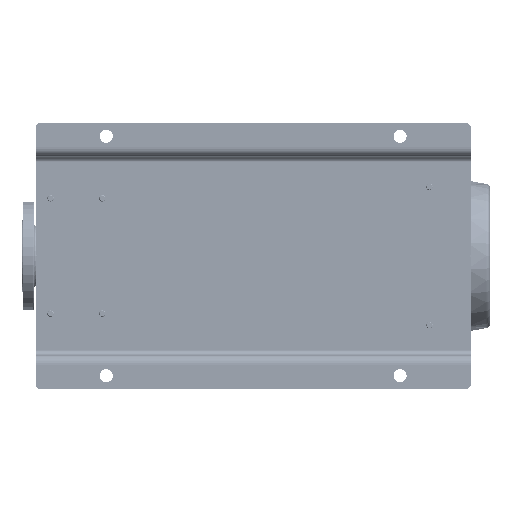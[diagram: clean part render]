
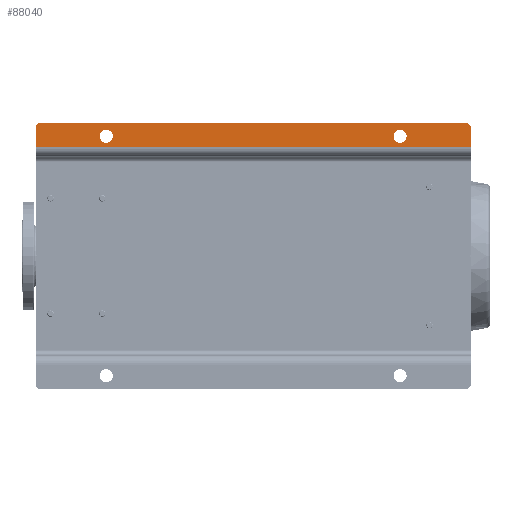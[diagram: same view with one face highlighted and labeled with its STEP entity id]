
A CAD part, front view. The second image highlights one B-rep face of the part: STEP entity #88040.
In plain terms, the highlighted planar face has unit normal (0, -1, 0).
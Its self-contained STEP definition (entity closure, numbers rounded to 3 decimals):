
#8941 = DIRECTION ( 'NONE',  ( 0., 0., -1. ) ) ;
#10934 = VERTEX_POINT ( 'NONE', #189083 ) ;
#16462 = DIRECTION ( 'NONE',  ( 0., 1., 0. ) ) ;
#20020 = VERTEX_POINT ( 'NONE', #116918 ) ;
#21479 = DIRECTION ( 'NONE',  ( 1., 0., 0. ) ) ;
#26175 = EDGE_CURVE ( 'NONE', #178928, #267199, #134485, .T. ) ;
#28060 = EDGE_CURVE ( 'NONE', #260769, #10934, #126453, .T. ) ;
#29530 = CARTESIAN_POINT ( 'NONE',  ( 477., 0., -670. ) ) ;
#30707 = LINE ( 'NONE', #207595, #228377 ) ;
#31109 = AXIS2_PLACEMENT_3D ( 'NONE', #174528, #16462, #149809 ) ;
#35516 = CARTESIAN_POINT ( 'NONE',  ( 445., 0., -800. ) ) ;
#44300 = ORIENTED_EDGE ( 'NONE', *, *, #239500, .T. ) ;
#45426 = CIRCLE ( 'NONE', #87217, 12. ) ;
#47220 = DIRECTION ( 'NONE',  ( 0., 0., -1. ) ) ;
#50452 = EDGE_CURVE ( 'NONE', #81708, #20020, #95686, .T. ) ;
#51413 = EDGE_CURVE ( 'NONE', #259460, #201997, #45426, .T. ) ;
#51449 = CARTESIAN_POINT ( 'NONE',  ( 465., 0., -670. ) ) ;
#52838 = DIRECTION ( 'NONE',  ( 0., 0., -1. ) ) ;
#55709 = DIRECTION ( 'NONE',  ( 0., 1., 0. ) ) ;
#56343 = EDGE_CURVE ( 'NONE', #61596, #104728, #153421, .T. ) ;
#56993 = FACE_BOUND ( 'NONE', #237165, .T. ) ;
#61596 = VERTEX_POINT ( 'NONE', #35516 ) ;
#66898 = ORIENTED_EDGE ( 'NONE', *, *, #284104, .T. ) ;
#76977 = EDGE_LOOP ( 'NONE', ( #121349, #66898, #191761, #226398, #140323, #44300 ) ) ;
#77239 = FACE_OUTER_BOUND ( 'NONE', #76977, .T. ) ;
#77406 = CIRCLE ( 'NONE', #31109, 12. ) ;
#81708 = VERTEX_POINT ( 'NONE', #197735 ) ;
#82726 = CARTESIAN_POINT ( 'NONE',  ( 490., 0., -790. ) ) ;
#84657 = ORIENTED_EDGE ( 'NONE', *, *, #192512, .T. ) ;
#87217 = AXIS2_PLACEMENT_3D ( 'NONE', #51449, #184919, #164569 ) ;
#88040 = ADVANCED_FACE ( 'NONE', ( #56993, #276044, #77239 ), #188996, .T. ) ;
#91913 = ORIENTED_EDGE ( 'NONE', *, *, #51413, .T. ) ;
#92141 = CARTESIAN_POINT ( 'NONE',  ( 480., 0., -10. ) ) ;
#93899 = CARTESIAN_POINT ( 'NONE',  ( 490., 0., -800. ) ) ;
#95686 = CIRCLE ( 'NONE', #100388, 12. ) ;
#99035 = DIRECTION ( 'NONE',  ( 0., -1., 0. ) ) ;
#100388 = AXIS2_PLACEMENT_3D ( 'NONE', #207983, #55709, #52838 ) ;
#104728 = VERTEX_POINT ( 'NONE', #242056 ) ;
#116201 = AXIS2_PLACEMENT_3D ( 'NONE', #92141, #267651, #47220 ) ;
#116918 = CARTESIAN_POINT ( 'NONE',  ( 453., 0., -130. ) ) ;
#117001 = AXIS2_PLACEMENT_3D ( 'NONE', #213534, #99035, #274596 ) ;
#121349 = ORIENTED_EDGE ( 'NONE', *, *, #28060, .F. ) ;
#126453 = LINE ( 'NONE', #172948, #224360 ) ;
#126510 = EDGE_CURVE ( 'NONE', #20020, #81708, #189106, .T. ) ;
#134485 = LINE ( 'NONE', #93899, #214049 ) ;
#140323 = ORIENTED_EDGE ( 'NONE', *, *, #26175, .T. ) ;
#143447 = EDGE_LOOP ( 'NONE', ( #91913, #84657 ) ) ;
#146182 = ORIENTED_EDGE ( 'NONE', *, *, #50452, .T. ) ;
#146508 = ORIENTED_EDGE ( 'NONE', *, *, #126510, .T. ) ;
#149809 = DIRECTION ( 'NONE',  ( 0., 0., -1. ) ) ;
#150888 = CARTESIAN_POINT ( 'NONE',  ( 453., 0., -670. ) ) ;
#153421 = LINE ( 'NONE', #262222, #283855 ) ;
#158896 = DIRECTION ( 'NONE',  ( 0., -1., 0. ) ) ;
#164569 = DIRECTION ( 'NONE',  ( 0., 0., -1. ) ) ;
#172948 = CARTESIAN_POINT ( 'NONE',  ( 427., 0., 0. ) ) ;
#174528 = CARTESIAN_POINT ( 'NONE',  ( 465., 0., -670. ) ) ;
#178928 = VERTEX_POINT ( 'NONE', #82726 ) ;
#182356 = CARTESIAN_POINT ( 'NONE',  ( 465., 0., -130. ) ) ;
#183789 = DIRECTION ( 'NONE',  ( 0., 1., 0. ) ) ;
#184919 = DIRECTION ( 'NONE',  ( 0., 1., 0. ) ) ;
#188996 = PLANE ( 'NONE',  #117001 ) ;
#189083 = CARTESIAN_POINT ( 'NONE',  ( 480., 0., 0. ) ) ;
#189106 = CIRCLE ( 'NONE', #212848, 12. ) ;
#191761 = ORIENTED_EDGE ( 'NONE', *, *, #56343, .T. ) ;
#192512 = EDGE_CURVE ( 'NONE', #201997, #259460, #77406, .T. ) ;
#192534 = AXIS2_PLACEMENT_3D ( 'NONE', #270519, #158896, #228339 ) ;
#197735 = CARTESIAN_POINT ( 'NONE',  ( 477., 0., -130. ) ) ;
#201997 = VERTEX_POINT ( 'NONE', #29530 ) ;
#202617 = DIRECTION ( 'NONE',  ( 0., 0., -1. ) ) ;
#207595 = CARTESIAN_POINT ( 'NONE',  ( 445., 0., -800. ) ) ;
#207983 = CARTESIAN_POINT ( 'NONE',  ( 465., 0., -130. ) ) ;
#210543 = CARTESIAN_POINT ( 'NONE',  ( 445., 0., 0. ) ) ;
#212848 = AXIS2_PLACEMENT_3D ( 'NONE', #182356, #183789, #202617 ) ;
#213534 = CARTESIAN_POINT ( 'NONE',  ( 427., 0., -800. ) ) ;
#214049 = VECTOR ( 'NONE', #246193, 1000. ) ;
#224360 = VECTOR ( 'NONE', #235239, 1000. ) ;
#226398 = ORIENTED_EDGE ( 'NONE', *, *, #277124, .T. ) ;
#228339 = DIRECTION ( 'NONE',  ( 0., 0., -1. ) ) ;
#228377 = VECTOR ( 'NONE', #8941, 1000. ) ;
#235239 = DIRECTION ( 'NONE',  ( 1., 0., 0. ) ) ;
#237165 = EDGE_LOOP ( 'NONE', ( #146508, #146182 ) ) ;
#237652 = CARTESIAN_POINT ( 'NONE',  ( 490., 0., -10. ) ) ;
#239500 = EDGE_CURVE ( 'NONE', #267199, #10934, #255137, .T. ) ;
#242056 = CARTESIAN_POINT ( 'NONE',  ( 480., 0., -800. ) ) ;
#246193 = DIRECTION ( 'NONE',  ( 0., 0., 1. ) ) ;
#255137 = CIRCLE ( 'NONE', #116201, 10. ) ;
#259460 = VERTEX_POINT ( 'NONE', #150888 ) ;
#260769 = VERTEX_POINT ( 'NONE', #210543 ) ;
#262222 = CARTESIAN_POINT ( 'NONE',  ( 427., 0., -800. ) ) ;
#266628 = CIRCLE ( 'NONE', #192534, 10. ) ;
#267199 = VERTEX_POINT ( 'NONE', #237652 ) ;
#267651 = DIRECTION ( 'NONE',  ( 0., -1., 0. ) ) ;
#270519 = CARTESIAN_POINT ( 'NONE',  ( 480., 0., -790. ) ) ;
#274596 = DIRECTION ( 'NONE',  ( 0., 0., -1. ) ) ;
#276044 = FACE_BOUND ( 'NONE', #143447, .T. ) ;
#277124 = EDGE_CURVE ( 'NONE', #104728, #178928, #266628, .T. ) ;
#283855 = VECTOR ( 'NONE', #21479, 1000. ) ;
#284104 = EDGE_CURVE ( 'NONE', #260769, #61596, #30707, .T. ) ;
